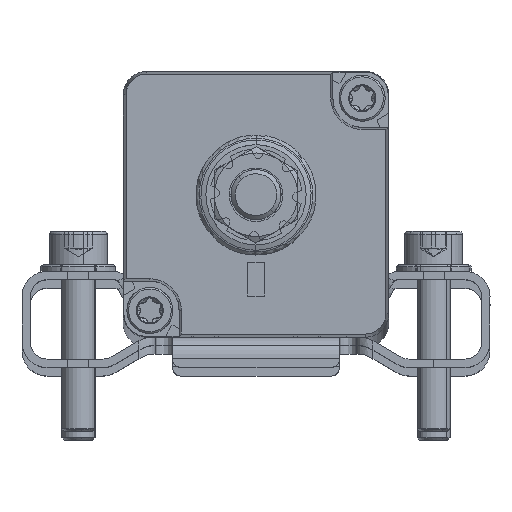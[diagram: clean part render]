
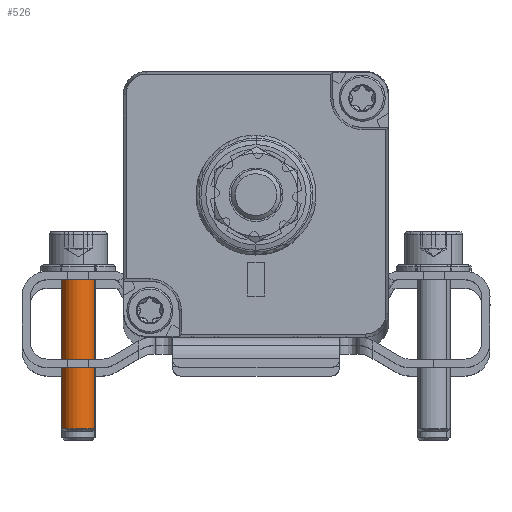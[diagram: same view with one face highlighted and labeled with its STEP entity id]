
A CAD part, top view. The second image highlights one B-rep face of the part: STEP entity #526.
In plain terms, the highlighted cylindrical face has radius 2 mm (diameter 4 mm), a partial arc.
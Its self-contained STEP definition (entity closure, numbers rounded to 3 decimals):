
#61 = VERTEX_POINT ( 'NONE', #3104 ) ;
#66 = EDGE_CURVE ( 'NONE', #61, #43633, #3102, .T. ) ;
#198 = EDGE_CURVE ( 'NONE', #43463, #43633, #3548, .T. ) ;
#286 = ORIENTED_EDGE ( 'NONE', *, *, #198, .T. ) ;
#348 = ORIENTED_EDGE ( 'NONE', *, *, #43615, .F. ) ;
#350 = ORIENTED_EDGE ( 'NONE', *, *, #43501, .T. ) ;
#483 = ORIENTED_EDGE ( 'NONE', *, *, #66, .F. ) ;
#506 = ORIENTED_EDGE ( 'NONE', *, *, #560, .F. ) ;
#524 = EDGE_LOOP ( 'NONE', ( #348, #350, #286, #483, #506 ) ) ;
#526 = ADVANCED_FACE ( 'NONE', ( #4655 ), #4635, .T. ) ;
#560 = EDGE_CURVE ( 'NONE', #43623, #61, #4763, .T. ) ;
#3098 = DIRECTION ( 'NONE',  ( -0.983, 0., 0.184 ) ) ;
#3099 = DIRECTION ( 'NONE',  ( 0., -1., 0. ) ) ;
#3100 = CARTESIAN_POINT ( 'NONE',  ( -21.25, -26.628, 116.25 ) ) ;
#3101 = AXIS2_PLACEMENT_3D ( 'NONE', #3100, #3099, #3098 ) ;
#3102 = CIRCLE ( 'NONE', #3101, 2. ) ;
#3104 = CARTESIAN_POINT ( 'NONE',  ( -20.881, -26.628, 118.216 ) ) ;
#3545 = DIRECTION ( 'NONE',  ( 0., -1., 0. ) ) ;
#3546 = VECTOR ( 'NONE', #3545, 1000. ) ;
#3547 = CARTESIAN_POINT ( 'NONE',  ( -23.216, -7.178, 116.619 ) ) ;
#3548 = LINE ( 'NONE', #3547, #3546 ) ;
#4632 = DIRECTION ( 'NONE',  ( -0.983, 0., 0.184 ) ) ;
#4633 = DIRECTION ( 'NONE',  ( 0., -1., 0. ) ) ;
#4634 = AXIS2_PLACEMENT_3D ( 'NONE', #4637, #4633, #4632 ) ;
#4635 = CYLINDRICAL_SURFACE ( 'NONE', #4634, 2. ) ;
#4637 = CARTESIAN_POINT ( 'NONE',  ( -21.25, -7.178, 116.25 ) ) ;
#4655 = FACE_OUTER_BOUND ( 'NONE', #524, .T. ) ;
#4759 = DIRECTION ( 'NONE',  ( -0.983, 0., 0.184 ) ) ;
#4760 = DIRECTION ( 'NONE',  ( 0., -1., 0. ) ) ;
#4761 = CARTESIAN_POINT ( 'NONE',  ( -21.25, -26.628, 116.25 ) ) ;
#4762 = AXIS2_PLACEMENT_3D ( 'NONE', #4761, #4760, #4759 ) ;
#4763 = CIRCLE ( 'NONE', #4762, 2. ) ;
#41282 = CARTESIAN_POINT ( 'NONE',  ( -23.216, -7.178, 116.619 ) ) ;
#41339 = CARTESIAN_POINT ( 'NONE',  ( -19.284, -7.178, 115.881 ) ) ;
#41401 = DIRECTION ( 'NONE',  ( -0.983, 0., 0.184 ) ) ;
#41402 = DIRECTION ( 'NONE',  ( 0., -1., 0. ) ) ;
#41403 = CARTESIAN_POINT ( 'NONE',  ( -21.25, -7.178, 116.25 ) ) ;
#41404 = AXIS2_PLACEMENT_3D ( 'NONE', #41403, #41402, #41401 ) ;
#41409 = CIRCLE ( 'NONE', #41404, 2. ) ;
#41722 = DIRECTION ( 'NONE',  ( 0., -1., 0. ) ) ;
#41723 = VECTOR ( 'NONE', #41722, 1000. ) ;
#41724 = CARTESIAN_POINT ( 'NONE',  ( -19.284, -7.178, 115.881 ) ) ;
#41725 = LINE ( 'NONE', #41724, #41723 ) ;
#41761 = CARTESIAN_POINT ( 'NONE',  ( -19.284, -26.628, 115.881 ) ) ;
#41795 = CARTESIAN_POINT ( 'NONE',  ( -23.216, -26.628, 116.619 ) ) ;
#43463 = VERTEX_POINT ( 'NONE', #41282 ) ;
#43478 = VERTEX_POINT ( 'NONE', #41339 ) ;
#43501 = EDGE_CURVE ( 'NONE', #43478, #43463, #41409, .T. ) ;
#43615 = EDGE_CURVE ( 'NONE', #43478, #43623, #41725, .T. ) ;
#43623 = VERTEX_POINT ( 'NONE', #41761 ) ;
#43633 = VERTEX_POINT ( 'NONE', #41795 ) ;
